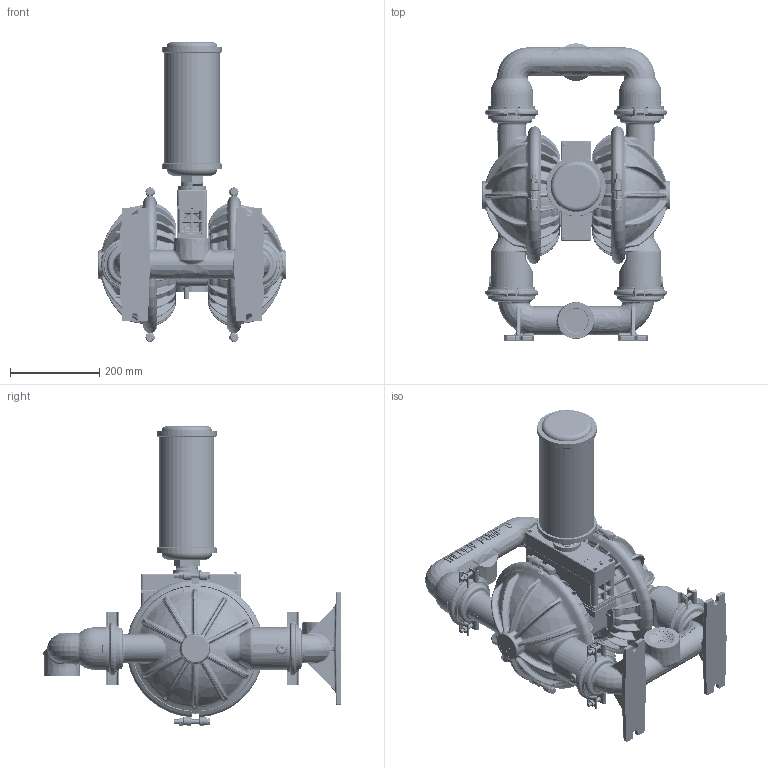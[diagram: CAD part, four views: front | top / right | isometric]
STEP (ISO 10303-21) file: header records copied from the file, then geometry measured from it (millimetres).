
FILE_DESCRIPTION (( 'STEP AP203' ), '1' );
FILE_NAME ('ps08_al_top.STEP', '2022-06-08T08:23:44', ( '' ), ( '' ), 'SwSTEP 2.0', 'SolidWorks 2019', '' );
FILE_SCHEMA (( 'CONFIG_CONTROL_DESIGN' ));
Length unit declared in the file: inch
Products named in the file (1): ps08_al_top
Bounding box: 420.67 x 665.32 x 670.14 mm (x, y, z)
Volume: 25328633.1 mm3; surface area: 1529841 mm2
Topology: 1 solids, 1 shells, 9860 faces, 25491 edges, 15938 vertices
Faces by surface type: plane 4870, bspline 2382, cylinder 1043, torus 739, cone 524, sphere 302
Entity records: 684085 total; most frequent: CARTESIAN_POINT 465211, ORIENTED_EDGE 50892, DIRECTION 38174, EDGE_CURVE 25446, VERTEX_POINT 15918, AXIS2_PLACEMENT_3D 13135, VECTOR 11904, LINE 11904
